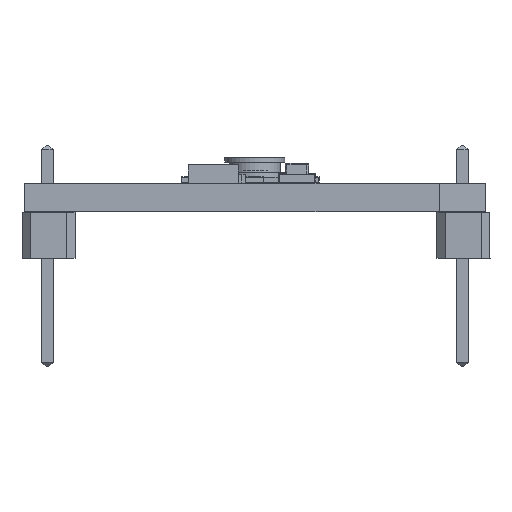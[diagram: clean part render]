
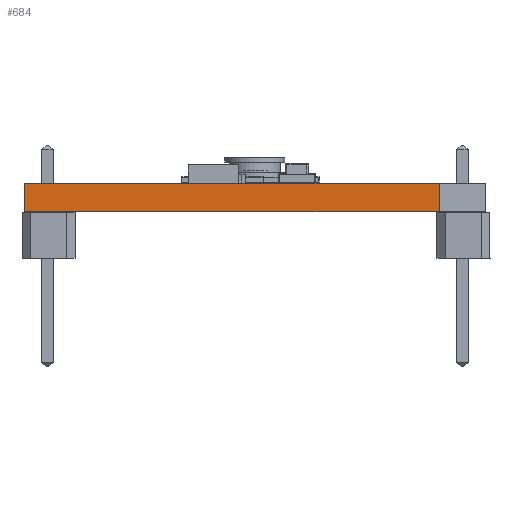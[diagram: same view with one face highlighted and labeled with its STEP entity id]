
A CAD part, front view. The second image highlights one B-rep face of the part: STEP entity #684.
In plain terms, the highlighted planar face has unit normal (0, -1, 0).
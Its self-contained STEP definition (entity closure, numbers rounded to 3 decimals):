
#659 = VERTEX_POINT('',#660);
#660 = CARTESIAN_POINT('',(21.59,-3.81,0.));
#666 = EDGE_CURVE('',#667,#659,#669,.T.);
#667 = VERTEX_POINT('',#668);
#668 = CARTESIAN_POINT('',(21.59,-3.81,-1.59));
#669 = LINE('',#670,#671);
#670 = CARTESIAN_POINT('',(21.59,-3.81,-1.59));
#671 = VECTOR('',#672,1.);
#672 = DIRECTION('',(0.,0.,1.));
#684 = ADVANCED_FACE('',(#685),#710,.T.);
#685 = FACE_BOUND('',#686,.T.);
#686 = EDGE_LOOP('',(#687,#688,#696,#704));
#687 = ORIENTED_EDGE('',*,*,#666,.T.);
#688 = ORIENTED_EDGE('',*,*,#689,.T.);
#689 = EDGE_CURVE('',#659,#690,#692,.T.);
#690 = VERTEX_POINT('',#691);
#691 = CARTESIAN_POINT('',(-1.27,-3.81,0.));
#692 = LINE('',#693,#694);
#693 = CARTESIAN_POINT('',(21.59,-3.81,0.));
#694 = VECTOR('',#695,1.);
#695 = DIRECTION('',(-1.,0.,0.));
#696 = ORIENTED_EDGE('',*,*,#697,.F.);
#697 = EDGE_CURVE('',#698,#690,#700,.T.);
#698 = VERTEX_POINT('',#699);
#699 = CARTESIAN_POINT('',(-1.27,-3.81,-1.59));
#700 = LINE('',#701,#702);
#701 = CARTESIAN_POINT('',(-1.27,-3.81,-1.59));
#702 = VECTOR('',#703,1.);
#703 = DIRECTION('',(0.,0.,1.));
#704 = ORIENTED_EDGE('',*,*,#705,.F.);
#705 = EDGE_CURVE('',#667,#698,#706,.T.);
#706 = LINE('',#707,#708);
#707 = CARTESIAN_POINT('',(21.59,-3.81,-1.59));
#708 = VECTOR('',#709,1.);
#709 = DIRECTION('',(-1.,0.,0.));
#710 = PLANE('',#711);
#711 = AXIS2_PLACEMENT_3D('',#712,#713,#714);
#712 = CARTESIAN_POINT('',(21.59,-3.81,-1.59));
#713 = DIRECTION('',(0.,-1.,0.));
#714 = DIRECTION('',(-1.,0.,0.));
